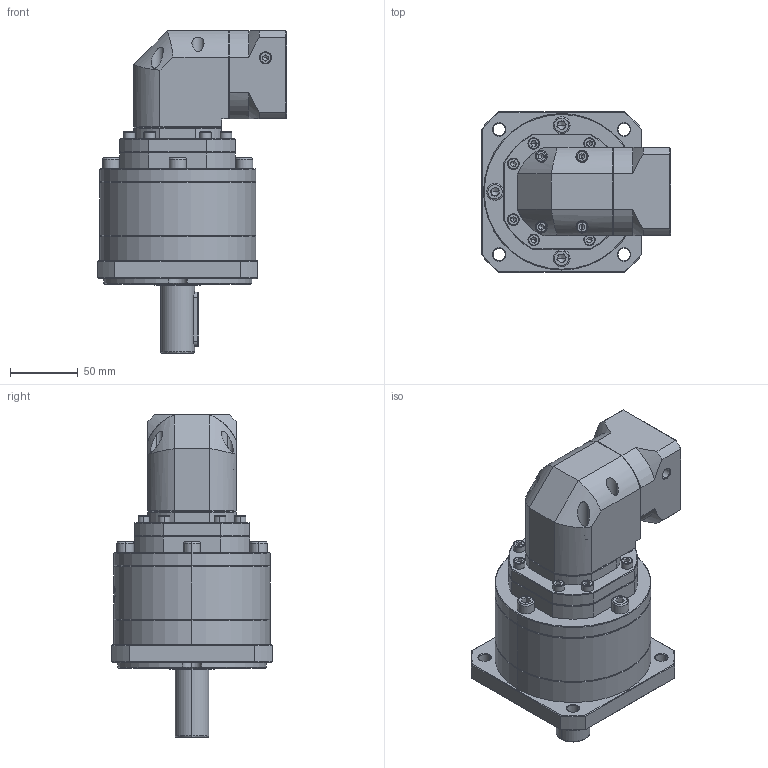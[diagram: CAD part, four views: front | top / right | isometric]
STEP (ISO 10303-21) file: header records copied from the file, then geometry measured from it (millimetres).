
FILE_DESCRIPTION (( 'STEP AP214' ), '1' );
FILE_NAME ('ZFR120A-D25-L3-P2-14-60-75-M6.step', '2023-08-27T09:48:34', ( '' ), ( '' ), 'SwSTEP 2.0', 'SolidWorks 2016', '' );
FILE_SCHEMA (( 'AUTOMOTIVE_DESIGN' ));
Length unit declared in the file: millimetre
Products named in the file (1): ZFR120A-D25-L3-P2-14-60-75-M6
Bounding box: 139.2 x 118 x 237.5 mm (x, y, z)
Volume: 1480719 mm3; surface area: 141215.5 mm2
Topology: 6 solids, 6 shells, 2431 faces, 6476 edges, 4161 vertices
Faces by surface type: plane 1172, cylinder 458, bspline 435, cone 346, torus 20
Entity records: 128927 total; most frequent: CARTESIAN_POINT 46966, ORIENTED_EDGE 12844, DIRECTION 9671, EDGE_CURVE 6422, VERTEX_POINT 4161, LINE 3427, VECTOR 3427, AXIS2_PLACEMENT_3D 3122
